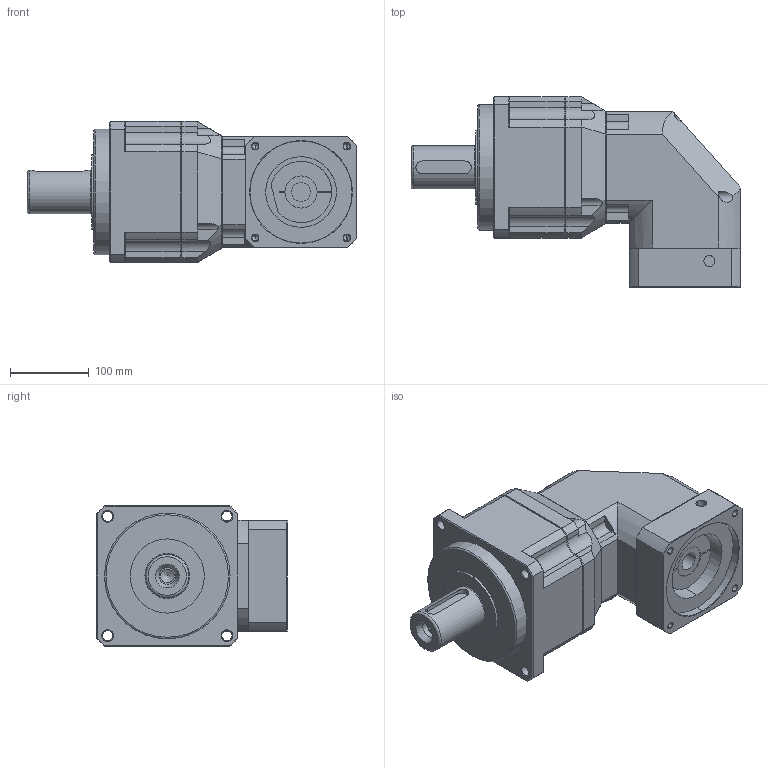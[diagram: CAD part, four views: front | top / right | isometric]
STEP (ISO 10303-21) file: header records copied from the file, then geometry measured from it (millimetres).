
FILE_DESCRIPTION(/* description */ (''),/* implementation_level */ '2;1');
FILE_NAME(/* name */ 'TBR180-L2-24-130-165-M10-93-10.5.stp',/* time_stamp */ '2021-08-12T14:20:11+08:00',/* author */ (''),/* organization */ (''),/* preprocessor_version */ 'ST-DEVELOPER v16',/* originating_system */ 'SIEMENS PLM Software NX 10.0',/* authorisation */ '');
FILE_SCHEMA (('CONFIG_CONTROL_DESIGN'));
Length unit declared in the file: millimetre
Products named in the file (1): _model764
Bounding box: 419.8 x 243 x 180 mm (x, y, z)
Volume: 8442563.5 mm3; surface area: 472765 mm2
Topology: 5 solids, 5 shells, 502 faces, 1205 edges, 728 vertices
Faces by surface type: plane 208, cylinder 154, cone 125, bspline 8, torus 7
Full cylindrical faces by diameter (mm): 6.8 x4, 8.5 x4, 11 x4, 13 x4, 16.7 x1, 17.5 x1, 21 x1, 35 x1, 35.5 x1, 49.5 x1, 52 x2, 55 x4, 60 x1, 94.5 x1, 160 x1
Entity records: 14785 total; most frequent: CARTESIAN_POINT 3624, DIRECTION 2307, ORIENTED_EDGE 2196, EDGE_CURVE 1098, AXIS2_PLACEMENT_3D 904, VERTEX_POINT 715, EDGE_LOOP 622, ADVANCED_FACE 502
